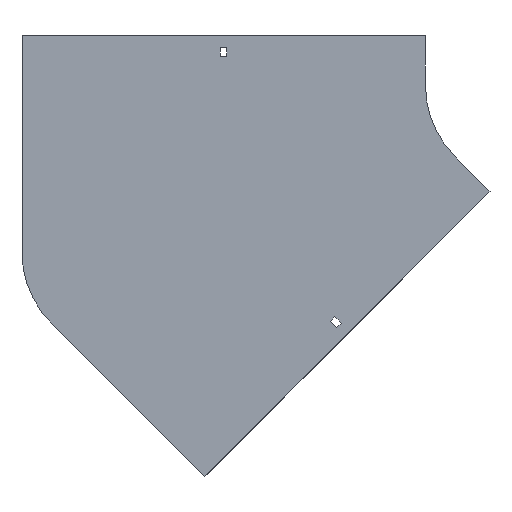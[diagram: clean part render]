
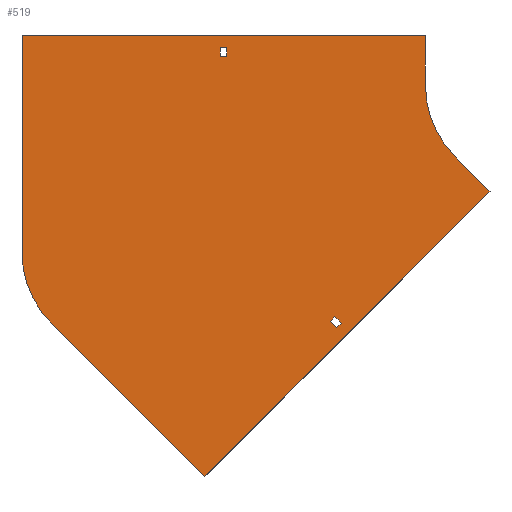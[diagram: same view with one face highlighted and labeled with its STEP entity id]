
A CAD part, front view. The second image highlights one B-rep face of the part: STEP entity #519.
In plain terms, the highlighted planar face has unit normal (0, -1, 0).
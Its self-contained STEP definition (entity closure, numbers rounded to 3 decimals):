
#1 = VERTEX_POINT ( 'NONE', #361 ) ;
#46 = ORIENTED_EDGE ( 'NONE', *, *, #909, .F. ) ;
#66 = LINE ( 'NONE', #663, #215 ) ;
#69 = LINE ( 'NONE', #88, #709 ) ;
#79 = EDGE_CURVE ( 'NONE', #613, #259, #1387, .T. ) ;
#80 = VECTOR ( 'NONE', #1481, 1000. ) ;
#86 = CARTESIAN_POINT ( 'NONE',  ( -305.25, 0., 29. ) ) ;
#88 = CARTESIAN_POINT ( 'NONE',  ( -100., 0., 50. ) ) ;
#102 = ORIENTED_EDGE ( 'NONE', *, *, #1794, .F. ) ;
#121 = DIRECTION ( 'NONE',  ( 0., 0., 1. ) ) ;
#151 = ORIENTED_EDGE ( 'NONE', *, *, #1390, .F. ) ;
#173 = LINE ( 'NONE', #953, #1139 ) ;
#180 = VECTOR ( 'NONE', #831, 1000. ) ;
#181 = LINE ( 'NONE', #190, #1943 ) ;
#182 = VERTEX_POINT ( 'NONE', #86 ) ;
#190 = CARTESIAN_POINT ( 'NONE',  ( -321.026, 0., -391.737 ) ) ;
#195 = DIRECTION ( 'NONE',  ( 0., -1., 0. ) ) ;
#206 = CARTESIAN_POINT ( 'NONE',  ( -70.711, 0., -70.711 ) ) ;
#215 = VECTOR ( 'NONE', #1574, 1000. ) ;
#217 = VERTEX_POINT ( 'NONE', #246 ) ;
#221 = DIRECTION ( 'NONE',  ( -0.707, 0., 0.707 ) ) ;
#236 = CARTESIAN_POINT ( 'NONE',  ( -305.25, 0., 38. ) ) ;
#244 = DIRECTION ( 'NONE',  ( 0., 0., 1. ) ) ;
#246 = CARTESIAN_POINT ( 'NONE',  ( -190.742, 0., -231.754 ) ) ;
#259 = VERTEX_POINT ( 'NONE', #1800 ) ;
#271 = VECTOR ( 'NONE', #1423, 1000. ) ;
#273 = LINE ( 'NONE', #306, #368 ) ;
#287 = EDGE_CURVE ( 'NONE', #1228, #879, #273, .T. ) ;
#292 = EDGE_CURVE ( 'NONE', #217, #1, #1635, .T. ) ;
#300 = EDGE_CURVE ( 'NONE', #259, #182, #1322, .T. ) ;
#306 = CARTESIAN_POINT ( 'NONE',  ( -504., 0., -167.342 ) ) ;
#338 = VECTOR ( 'NONE', #1863, 1000. ) ;
#339 = CIRCLE ( 'NONE', #1439, 100. ) ;
#361 = CARTESIAN_POINT ( 'NONE',  ( -195.338, 0., -236.35 ) ) ;
#367 = FACE_OUTER_BOUND ( 'NONE', #1462, .T. ) ;
#368 = VECTOR ( 'NONE', #1932, 1000. ) ;
#371 = CARTESIAN_POINT ( 'NONE',  ( -184.378, 0., -238.118 ) ) ;
#380 = ORIENTED_EDGE ( 'NONE', *, *, #292, .F. ) ;
#394 = VECTOR ( 'NONE', #941, 1000. ) ;
#402 = CARTESIAN_POINT ( 'NONE',  ( -504., 0., -167.342 ) ) ;
#433 = EDGE_CURVE ( 'NONE', #752, #1545, #173, .T. ) ;
#438 = CARTESIAN_POINT ( 'NONE',  ( -305.25, 0., 29. ) ) ;
#457 = ORIENTED_EDGE ( 'NONE', *, *, #300, .T. ) ;
#496 = DIRECTION ( 'NONE',  ( 0., 0., -1. ) ) ;
#519 = ADVANCED_FACE ( 'NONE', ( #827, #367, #964 ), #1109, .T. ) ;
#539 = ORIENTED_EDGE ( 'NONE', *, *, #1001, .F. ) ;
#557 = VECTOR ( 'NONE', #244, 1000. ) ;
#578 = ORIENTED_EDGE ( 'NONE', *, *, #1940, .T. ) ;
#613 = VERTEX_POINT ( 'NONE', #1951 ) ;
#614 = CARTESIAN_POINT ( 'NONE',  ( -188.974, 0., -242.714 ) ) ;
#663 = CARTESIAN_POINT ( 'NONE',  ( -70.711, 0., -70.711 ) ) ;
#666 = LINE ( 'NONE', #822, #271 ) ;
#674 = CIRCLE ( 'NONE', #1716, 100. ) ;
#709 = VECTOR ( 'NONE', #1285, 1000. ) ;
#711 = CARTESIAN_POINT ( 'NONE',  ( -35.355, 0., -106.066 ) ) ;
#712 = ORIENTED_EDGE ( 'NONE', *, *, #1928, .F. ) ;
#714 = VECTOR ( 'NONE', #870, 1000. ) ;
#733 = VERTEX_POINT ( 'NONE', #711 ) ;
#736 = LINE ( 'NONE', #875, #80 ) ;
#741 = EDGE_CURVE ( 'NONE', #1473, #1228, #674, .T. ) ;
#752 = VERTEX_POINT ( 'NONE', #614 ) ;
#780 = ORIENTED_EDGE ( 'NONE', *, *, #1570, .T. ) ;
#806 = LINE ( 'NONE', #922, #394 ) ;
#819 = LINE ( 'NONE', #828, #557 ) ;
#822 = CARTESIAN_POINT ( 'NONE',  ( -504., 0., 50. ) ) ;
#827 = FACE_BOUND ( 'NONE', #1354, .T. ) ;
#828 = CARTESIAN_POINT ( 'NONE',  ( -305.25, 0., 29. ) ) ;
#831 = DIRECTION ( 'NONE',  ( 1., 0., 0. ) ) ;
#868 = CARTESIAN_POINT ( 'NONE',  ( -404., 0., -167.342 ) ) ;
#870 = DIRECTION ( 'NONE',  ( -0.707, 0., -0.707 ) ) ;
#875 = CARTESIAN_POINT ( 'NONE',  ( -195.338, 0., -236.35 ) ) ;
#879 = VERTEX_POINT ( 'NONE', #1805 ) ;
#895 = VECTOR ( 'NONE', #221, 1000. ) ;
#909 = EDGE_CURVE ( 'NONE', #1, #752, #736, .T. ) ;
#922 = CARTESIAN_POINT ( 'NONE',  ( -35.355, 0., -106.066 ) ) ;
#941 = DIRECTION ( 'NONE',  ( -0.707, 0., -0.707 ) ) ;
#952 = VERTEX_POINT ( 'NONE', #1408 ) ;
#953 = CARTESIAN_POINT ( 'NONE',  ( -188.974, 0., -242.714 ) ) ;
#960 = CARTESIAN_POINT ( 'NONE',  ( -474.711, 0., -238.053 ) ) ;
#964 = FACE_BOUND ( 'NONE', #1732, .T. ) ;
#975 = ORIENTED_EDGE ( 'NONE', *, *, #1577, .F. ) ;
#988 = CARTESIAN_POINT ( 'NONE',  ( -100., 0., 50. ) ) ;
#996 = ORIENTED_EDGE ( 'NONE', *, *, #287, .F. ) ;
#1000 = LINE ( 'NONE', #1571, #895 ) ;
#1001 = EDGE_CURVE ( 'NONE', #952, #1473, #181, .T. ) ;
#1077 = CARTESIAN_POINT ( 'NONE',  ( -298.75, 0., 29. ) ) ;
#1099 = DIRECTION ( 'NONE',  ( -0.707, 0., 0.707 ) ) ;
#1109 = PLANE ( 'NONE',  #1743 ) ;
#1112 = ORIENTED_EDGE ( 'NONE', *, *, #1519, .F. ) ;
#1139 = VECTOR ( 'NONE', #1861, 1000. ) ;
#1148 = EDGE_CURVE ( 'NONE', #1545, #217, #1000, .T. ) ;
#1149 = VECTOR ( 'NONE', #1644, 1000. ) ;
#1164 = CARTESIAN_POINT ( 'NONE',  ( -100., 0., 0. ) ) ;
#1202 = CARTESIAN_POINT ( 'NONE',  ( -195.338, 0., -236.35 ) ) ;
#1228 = VERTEX_POINT ( 'NONE', #402 ) ;
#1285 = DIRECTION ( 'NONE',  ( 0., 0., -1. ) ) ;
#1290 = VERTEX_POINT ( 'NONE', #1164 ) ;
#1322 = LINE ( 'NONE', #438, #1149 ) ;
#1354 = EDGE_LOOP ( 'NONE', ( #578, #780, #1775, #457 ) ) ;
#1387 = LINE ( 'NONE', #1077, #338 ) ;
#1390 = EDGE_CURVE ( 'NONE', #733, #952, #806, .T. ) ;
#1408 = CARTESIAN_POINT ( 'NONE',  ( -321.026, 0., -391.737 ) ) ;
#1419 = CARTESIAN_POINT ( 'NONE',  ( 0., 0., 0. ) ) ;
#1421 = ORIENTED_EDGE ( 'NONE', *, *, #741, .F. ) ;
#1423 = DIRECTION ( 'NONE',  ( 1., 0., 0. ) ) ;
#1439 = AXIS2_PLACEMENT_3D ( 'NONE', #1854, #195, #496 ) ;
#1459 = VERTEX_POINT ( 'NONE', #206 ) ;
#1462 = EDGE_LOOP ( 'NONE', ( #1112, #996, #1421, #539, #151, #712, #102, #975 ) ) ;
#1473 = VERTEX_POINT ( 'NONE', #960 ) ;
#1474 = DIRECTION ( 'NONE',  ( 0., 1., 0. ) ) ;
#1481 = DIRECTION ( 'NONE',  ( 0.707, 0., -0.707 ) ) ;
#1499 = VERTEX_POINT ( 'NONE', #988 ) ;
#1519 = EDGE_CURVE ( 'NONE', #879, #1499, #666, .T. ) ;
#1545 = VERTEX_POINT ( 'NONE', #371 ) ;
#1552 = ORIENTED_EDGE ( 'NONE', *, *, #433, .F. ) ;
#1570 = EDGE_CURVE ( 'NONE', #1655, #613, #1583, .T. ) ;
#1571 = CARTESIAN_POINT ( 'NONE',  ( -190.742, 0., -231.754 ) ) ;
#1572 = ORIENTED_EDGE ( 'NONE', *, *, #1148, .F. ) ;
#1574 = DIRECTION ( 'NONE',  ( 0.707, 0., -0.707 ) ) ;
#1577 = EDGE_CURVE ( 'NONE', #1499, #1290, #69, .T. ) ;
#1583 = LINE ( 'NONE', #236, #180 ) ;
#1590 = DIRECTION ( 'NONE',  ( 0., -1., 0. ) ) ;
#1635 = LINE ( 'NONE', #1202, #714 ) ;
#1644 = DIRECTION ( 'NONE',  ( -1., 0., 0. ) ) ;
#1655 = VERTEX_POINT ( 'NONE', #1765 ) ;
#1716 = AXIS2_PLACEMENT_3D ( 'NONE', #868, #1474, #121 ) ;
#1732 = EDGE_LOOP ( 'NONE', ( #1552, #46, #380, #1572 ) ) ;
#1743 = AXIS2_PLACEMENT_3D ( 'NONE', #1419, #1590, #1747 ) ;
#1747 = DIRECTION ( 'NONE',  ( 0., 0., -1. ) ) ;
#1765 = CARTESIAN_POINT ( 'NONE',  ( -305.25, 0., 38. ) ) ;
#1775 = ORIENTED_EDGE ( 'NONE', *, *, #79, .T. ) ;
#1794 = EDGE_CURVE ( 'NONE', #1290, #1459, #339, .T. ) ;
#1800 = CARTESIAN_POINT ( 'NONE',  ( -298.75, 0., 29. ) ) ;
#1805 = CARTESIAN_POINT ( 'NONE',  ( -504., 0., 50. ) ) ;
#1854 = CARTESIAN_POINT ( 'NONE',  ( 0., 0., 0. ) ) ;
#1861 = DIRECTION ( 'NONE',  ( 0.707, 0., 0.707 ) ) ;
#1863 = DIRECTION ( 'NONE',  ( 0., 0., -1. ) ) ;
#1928 = EDGE_CURVE ( 'NONE', #1459, #733, #66, .T. ) ;
#1932 = DIRECTION ( 'NONE',  ( 0., 0., 1. ) ) ;
#1940 = EDGE_CURVE ( 'NONE', #182, #1655, #819, .T. ) ;
#1943 = VECTOR ( 'NONE', #1099, 1000. ) ;
#1951 = CARTESIAN_POINT ( 'NONE',  ( -298.75, 0., 38. ) ) ;
